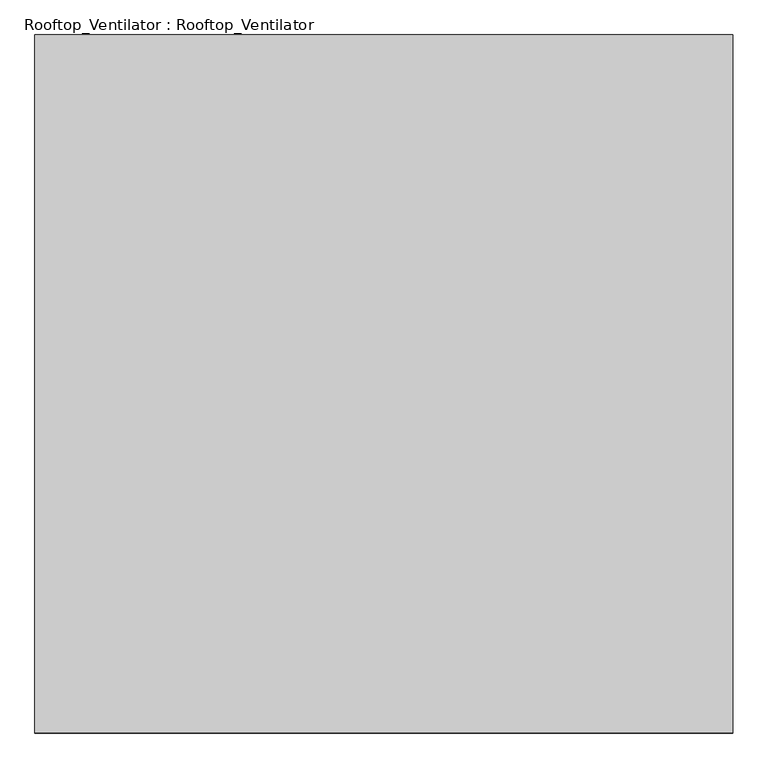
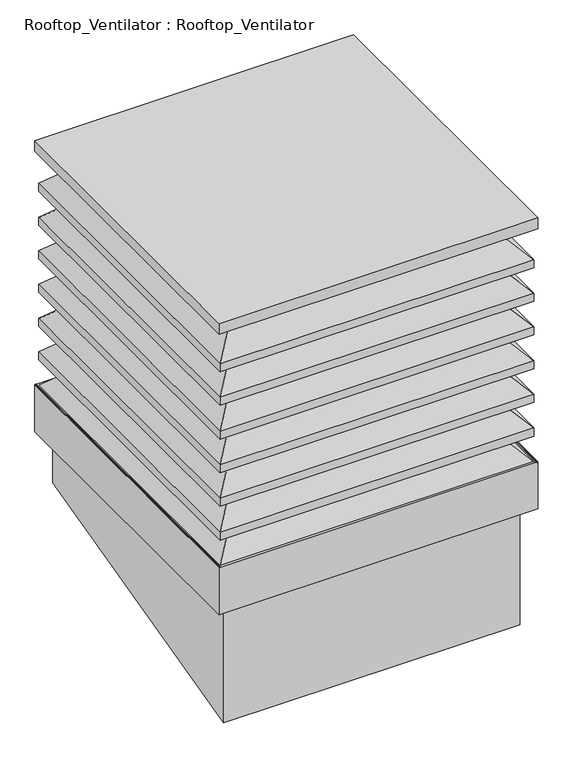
"""IFC4 building model written with IfcOpenShell, lengths in millimetres: proxy geometry, Rooftop_Ventilator : Rooftop_Ventilator."""

import ifcopenshell
import ifcopenshell.guid

model = None  # the IFC model being written
_history = None  # IfcOwnerHistory: only IFC2X3 demands one
_inside = {}  # id of a spatial element -> (the spatial element, [elements in it])
_under = {}  # id of a project, library or spatial element -> (it, [spatial elements below it])
_declared = {}  # id of a project -> (the project, [libraries it declares])
_typed = {}  # id of a type object -> (the type object, [elements of that type])
_made_of = {}  # id of a material, layer set ... -> (it, [elements and type objects made of it])


def new_model(schema):
    """Start an empty IFC model of exactly this schema.

    Asked for "IFC4X3", IfcOpenShell would pick the latest addendum, in which some entities
    have other attributes; the version numbers below select the first issue.
    IFC2X3 requires an IfcOwnerHistory on every rooted entity: one is made here for all.
    """
    global model, _history
    if schema == "IFC4X3":
        model = ifcopenshell.file(schema_version=(4, 3, 0, 0))
    else:
        model = ifcopenshell.file(schema=schema)
    _inside.clear()
    _under.clear()
    _declared.clear()
    _typed.clear()
    _made_of.clear()
    _history = None
    if model.schema == "IFC2X3":
        org = make("IfcOrganization", Name="unknown")
        user = make(
            "IfcPersonAndOrganization",
            ThePerson=make("IfcPerson", FamilyName="unknown"),
            TheOrganization=org,
        )
        app = make(
            "IfcApplication",
            ApplicationDeveloper=org,
            Version="unknown",
            ApplicationFullName="unknown",
            ApplicationIdentifier="unknown",
        )
        _history = make(
            "IfcOwnerHistory",
            OwningUser=user,
            OwningApplication=app,
            ChangeAction="ADDED",
            CreationDate=0,
        )
    return model


def make(cls, **values):
    """One entity of the class cls with the attributes given. An attribute that is None is left unset."""
    return model.create_entity(
        cls, **{name: value for name, value in values.items() if value is not None}
    )


def rooted(cls, **values):
    """An entity with a GlobalId (a new one), such as an element, a storey or a relation."""
    return make(cls, GlobalId=ifcopenshell.guid.new(), OwnerHistory=_history, **values)


def si_unit(unit_type, name, prefix=None):
    """IfcSIUnit, for example si_unit("LENGTHUNIT", "METRE", prefix="MILLI")."""
    return make("IfcSIUnit", UnitType=unit_type, Prefix=prefix, Name=name)


def assignment(units):
    """IfcUnitAssignment: the units of a project."""
    return None if units is None else make("IfcUnitAssignment", Units=units)


def point(xyz):
    """IfcCartesianPoint."""
    return None if xyz is None else make("IfcCartesianPoint", Coordinates=xyz)


def direction(xyz):
    """IfcDirection."""
    return None if xyz is None else make("IfcDirection", DirectionRatios=xyz)


def frame(location, z_axis=None, x_axis=None):
    """IfcAxis2Placement3D, a coordinate frame: its origin and axes. An axis left out is left unset."""
    return make(
        "IfcAxis2Placement3D",
        Location=point(location),
        Axis=direction(z_axis),
        RefDirection=direction(x_axis),
    )


def origin():
    """The frame at (0, 0, 0) with its axes left unset."""
    return frame((0.0, 0.0, 0.0))


def place(relative_to, where):
    """IfcLocalPlacement: puts the frame where relative to a parent placement (None: the world)."""
    return make(
        "IfcLocalPlacement", PlacementRelTo=relative_to, RelativePlacement=where
    )


def context(
    kind, dimensions, precision=None, world=None, true_north=None, identifier=None
):
    """IfcGeometricRepresentationContext, for example the 3D "Model" context."""
    return make(
        "IfcGeometricRepresentationContext",
        ContextIdentifier=identifier,
        ContextType=kind,
        CoordinateSpaceDimension=dimensions,
        Precision=precision,
        WorldCoordinateSystem=world,
        TrueNorth=true_north,
    )


def project(units=None, contexts=None):
    """IfcProject with its units and contexts."""
    return rooted(
        "IfcProject",
        Name="project",
        RepresentationContexts=contexts,
        UnitsInContext=assignment(units),
    )


def spatial(cls, under=None, at=None, **own):
    """A site, building, storey or space (cls), placed at a placement, below another one or the project."""
    s = rooted(cls, ObjectPlacement=at, **own)
    if under is not None:
        _under.setdefault(under.id(), (under, []))[1].append(s)
    return s


def polyline(points):
    """IfcPolyline through the points."""
    return make("IfcPolyline", Points=[point(p) for p in points])


def outline(outer, holes=None, kind="AREA"):
    """IfcArbitraryClosedProfileDef: a profile drawn as a closed curve; with holes, ...WithVoids."""
    if holes is None:
        return make("IfcArbitraryClosedProfileDef", ProfileType=kind, OuterCurve=outer)
    return make(
        "IfcArbitraryProfileDefWithVoids",
        ProfileType=kind,
        OuterCurve=outer,
        InnerCurves=holes,
    )


def extrude(swept, where, along, depth):
    """IfcExtrudedAreaSolid: the profile swept, set in the frame where, extruded along a direction by depth."""
    return make(
        "IfcExtrudedAreaSolid",
        SweptArea=swept,
        Position=where,
        ExtrudedDirection=direction(along),
        Depth=depth,
    )


def faces_of(points, faces, orient=None, outer=None):
    """IfcFace entities. A face is a list of loops; a loop is a list of indices into points, from 0.

    orient and outer hold one flag for each loop. By default every Orientation is true, the
    first loop of a face is its IfcFaceOuterBound and the others are IfcFaceBound.
    """
    made = []
    for i, loops in enumerate(faces):
        bounds = []
        for j, loop in enumerate(loops):
            is_outer = j == 0 if outer is None else outer[i][j]
            bounds.append(
                make(
                    "IfcFaceOuterBound" if is_outer else "IfcFaceBound",
                    Bound=make("IfcPolyLoop", Polygon=[points[k] for k in loop]),
                    Orientation=True if orient is None else orient[i][j],
                )
            )
        made.append(make("IfcFace", Bounds=bounds))
    return made


def faceted_brep(points, faces, orient=None, outer=None, voids=None):
    """IfcFacetedBrep: a solid bounded by flat faces; with voids (closed shells), ...WithVoids."""
    shared = [point(p) for p in points]
    hull = make("IfcClosedShell", CfsFaces=faces_of(shared, faces, orient, outer))
    if voids is None:
        return make("IfcFacetedBrep", Outer=hull)
    return make(
        "IfcFacetedBrepWithVoids",
        Outer=hull,
        Voids=[
            make(cls, CfsFaces=faces_of(shared, fs, o, b)) for cls, fs, o, b in voids
        ],
    )


def shape(context_of_items, identifier, shape_type, items):
    """IfcShapeRepresentation: the items that make up one representation, for example the "Body"."""
    return make(
        "IfcShapeRepresentation",
        ContextOfItems=context_of_items,
        RepresentationIdentifier=identifier,
        RepresentationType=shape_type,
        Items=items,
    )


def source(mapping_origin, context_of_items, identifier, shape_type, items):
    """IfcRepresentationMap: a shape defined once, which mapped items show again and again."""
    return make(
        "IfcRepresentationMap",
        MappingOrigin=mapping_origin,
        MappedRepresentation=shape(context_of_items, identifier, shape_type, items),
    )


def transform(
    local_origin,
    x_axis=None,
    y_axis=None,
    z_axis=None,
    scale=None,
    scale2=None,
    scale3=None,
    uniform=True,
):
    """IfcCartesianTransformationOperator3D, or its non-uniform kind. x_axis, y_axis, z_axis: its Axis1, 2, 3."""
    if uniform:
        return make(
            "IfcCartesianTransformationOperator3D",
            Axis1=direction(x_axis),
            Axis2=direction(y_axis),
            LocalOrigin=point(local_origin),
            Scale=scale,
            Axis3=direction(z_axis),
        )
    return make(
        "IfcCartesianTransformationOperator3DnonUniform",
        Axis1=direction(x_axis),
        Axis2=direction(y_axis),
        LocalOrigin=point(local_origin),
        Scale=scale,
        Axis3=direction(z_axis),
        Scale2=scale2,
        Scale3=scale3,
    )


def mapped(mapping_source, mapping_target):
    """IfcMappedItem: shows the shape of a source again, moved by a transform."""
    return make(
        "IfcMappedItem", MappingSource=mapping_source, MappingTarget=mapping_target
    )


def made_of(thing, what):
    """Note that an element or type object is made of a material, layer set ...; save() writes the relation."""
    if what is not None:
        _made_of.setdefault(what.id(), (what, []))[1].append(thing)
    return thing


def element(
    cls,
    number,
    at=None,
    inside=None,
    cuts=None,
    type_object=None,
    material=None,
    context=None,
    identifier="Body",
    shape_type=None,
    held_by="IfcProductDefinitionShape",
    body=None,
    shapes=None,
    **own,
):
    """One element of the class cls, such as IfcWall. Its Tag is "e" and its number.

    at: its placement. inside: the storey or other place that contains it. cuts: it is an
    opening in that element (IfcRelVoidsElement). A single representation is given by context,
    identifier, shape_type and body (its items); several are given by shapes. held_by: the class
    of the entity that holds the representations. save() writes the other relations.
    """
    e = rooted(cls, Tag="e%d" % number, ObjectPlacement=at, **own)
    if body is not None:
        shapes = [shape(context, identifier, shape_type, body)]
    if shapes is not None:
        e.Representation = make(held_by, Representations=shapes)
    if inside is not None:
        _inside.setdefault(inside.id(), (inside, []))[1].append(e)
    if cuts is not None:
        rooted(
            "IfcRelVoidsElement", RelatingBuildingElement=cuts, RelatedOpeningElement=e
        )
    if type_object is not None:
        _typed.setdefault(type_object.id(), (type_object, []))[1].append(e)
    return made_of(e, material)


def aggregate(whole, parts):
    """IfcRelAggregates: a whole, such as a stair, and the parts it consists of."""
    return rooted("IfcRelAggregates", RelatingObject=whole, RelatedObjects=parts)


def save(model, path):
    """Write the relations noted so far, then the file.

    IfcRelAggregates (storeys below a building ...), IfcRelContainedInSpatialStructure (elements
    in a storey), IfcRelDefinesByType, IfcRelAssociatesMaterial and IfcRelDeclares: one each for
    every whole, place, type object, material and project.
    """
    for whole, parts in _under.values():
        aggregate(whole, parts)
    for where, things in _inside.values():
        rooted(
            "IfcRelContainedInSpatialStructure",
            RelatedElements=things,
            RelatingStructure=where,
        )
    for kind, things in _typed.values():
        rooted("IfcRelDefinesByType", RelatedObjects=things, RelatingType=kind)
    for what, things in _made_of.values():
        rooted("IfcRelAssociatesMaterial", RelatedObjects=things, RelatingMaterial=what)
    for by, libraries in _declared.values():
        rooted("IfcRelDeclares", RelatingContext=by, RelatedDefinitions=libraries)
    model.write(path)


def rooftop_ventilator_rooftop_ventilator_6a53a70c(model_context):
    return source(origin(), model_context, "Body", "SolidModel", [
        extrude(outline(polyline([(-660.4, 152.4), (660.4, 152.4), (660.4, -76.2070777), (-660.4, -406.4990883), (-660.4, 152.4)])), frame((-660.4, 0.0, 0.0), z_axis=(1.0, 0.0, 0.0), x_axis=(0.0, 1.0, 0.0)), (0.0, 0.0, 1.0), 1320.8),
        faceted_brep([(700.9100922, 700.9100922, 1286.925774), (700.9100922, 700.9100922, 1325.025774), (700.9100922, -700.9100922, 1325.025774), (700.9100922, -700.9100922, 1286.925774), (662.8100922, 662.8100922, 1290.100774), (662.8100922, 662.8100922, 1286.925774), (662.8100922, -662.8100922, 1286.925774), (662.8100922, -662.8100922, 1290.100774), (697.7350922, 697.7350922, 1323.7106459), (697.7350922, 697.7350922, 1290.100774), (697.7350922, -697.7350922, 1290.100774), (697.7350922, -697.7350922, 1323.7106459), (549.461637, 549.461637, 1471.9841011), (549.461637, -549.461637, 1471.9841011), (549.461637, 549.461637, 1473.2), (549.461637, -549.461637, 1473.2), (552.7358662, 552.7358662, 1473.2), (552.7358662, -552.7358662, 1473.2), (-700.9100922, -700.9100922, 1325.025774), (-700.9100922, -700.9100922, 1286.925774), (-662.8100922, -662.8100922, 1286.925774), (-662.8100922, -662.8100922, 1290.100774), (-697.7350922, -697.7350922, 1290.100774), (-697.7350922, -697.7350922, 1323.7106459), (-549.461637, -549.461637, 1471.9841011), (-549.461637, -549.461637, 1473.2), (-552.7358662, -552.7358662, 1473.2), (-700.9100922, 700.9100922, 1325.025774), (-700.9100922, 700.9100922, 1286.925774), (-662.8100922, 662.8100922, 1286.925774), (-662.8100922, 662.8100922, 1290.100774), (-697.7350922, 697.7350922, 1290.100774), (-697.7350922, 697.7350922, 1323.7106459), (-549.461637, 549.461637, 1471.9841011), (-549.461637, 549.461637, 1473.2), (-552.7358662, 552.7358662, 1473.2)], [[[0, 1, 2, 3]], [[4, 5, 6, 7]], [[8, 9, 10, 11]], [[12, 8, 11, 13]], [[14, 12, 13, 15]], [[1, 16, 17, 2]], [[3, 2, 18, 19]], [[7, 6, 20, 21]], [[11, 10, 22, 23]], [[13, 11, 23, 24]], [[15, 13, 24, 25]], [[2, 17, 26, 18]], [[19, 18, 27, 28]], [[21, 20, 29, 30]], [[23, 22, 31, 32]], [[24, 23, 32, 33]], [[25, 24, 33, 34]], [[18, 26, 35, 27]], [[28, 27, 1, 0]], [[3, 19, 28, 0], [5, 29, 20, 6]], [[30, 29, 5, 4]], [[9, 31, 22, 10], [7, 21, 30, 4]], [[32, 31, 9, 8]], [[33, 32, 8, 12]], [[34, 33, 12, 14]], [[16, 35, 26, 17], [15, 25, 34, 14]], [[27, 35, 16, 1]]]),
        faceted_brep([(700.9100922, 700.9100922, 1128.175774), (700.9100922, 700.9100922, 1166.275774), (700.9100922, -700.9100922, 1166.275774), (700.9100922, -700.9100922, 1128.175774), (662.8100922, 662.8100922, 1131.350774), (662.8100922, 662.8100922, 1128.175774), (662.8100922, -662.8100922, 1128.175774), (662.8100922, -662.8100922, 1131.350774), (697.7350922, 697.7350922, 1164.9606459), (697.7350922, 697.7350922, 1131.350774), (697.7350922, -697.7350922, 1131.350774), (697.7350922, -697.7350922, 1164.9606459), (554.0509943, 554.0509943, 1308.6447439), (554.0509943, -554.0509943, 1308.6447439), (554.0509943, 554.0509943, 1348.0598719), (554.0509943, -554.0509943, 1348.0598719), (592.1509943, 592.1509943, 1344.8848719), (592.1509943, 592.1509943, 1348.0598719), (592.1509943, -592.1509943, 1348.0598719), (592.1509943, -592.1509943, 1344.8848719), (557.2259943, 557.2259943, 1309.9598719), (557.2259943, 557.2259943, 1344.8848719), (557.2259943, -557.2259943, 1344.8848719), (557.2259943, -557.2259943, 1309.9598719), (-700.9100922, -700.9100922, 1166.275774), (-700.9100922, -700.9100922, 1128.175774), (-662.8100922, -662.8100922, 1128.175774), (-662.8100922, -662.8100922, 1131.350774), (-697.7350922, -697.7350922, 1131.350774), (-697.7350922, -697.7350922, 1164.9606459), (-554.0509943, -554.0509943, 1308.6447439), (-554.0509943, -554.0509943, 1348.0598719), (-592.1509943, -592.1509943, 1348.0598719), (-592.1509943, -592.1509943, 1344.8848719), (-557.2259943, -557.2259943, 1344.8848719), (-557.2259943, -557.2259943, 1309.9598719), (-700.9100922, 700.9100922, 1166.275774), (-700.9100922, 700.9100922, 1128.175774), (-662.8100922, 662.8100922, 1128.175774), (-662.8100922, 662.8100922, 1131.350774), (-697.7350922, 697.7350922, 1131.350774), (-697.7350922, 697.7350922, 1164.9606459), (-554.0509943, 554.0509943, 1308.6447439), (-554.0509943, 554.0509943, 1348.0598719), (-592.1509943, 592.1509943, 1348.0598719), (-592.1509943, 592.1509943, 1344.8848719), (-557.2259943, 557.2259943, 1344.8848719), (-557.2259943, 557.2259943, 1309.9598719)], [[[0, 1, 2, 3]], [[4, 5, 6, 7]], [[8, 9, 10, 11]], [[12, 8, 11, 13]], [[14, 12, 13, 15]], [[16, 17, 18, 19]], [[20, 21, 22, 23]], [[1, 20, 23, 2]], [[3, 2, 24, 25]], [[7, 6, 26, 27]], [[11, 10, 28, 29]], [[13, 11, 29, 30]], [[15, 13, 30, 31]], [[19, 18, 32, 33]], [[23, 22, 34, 35]], [[2, 23, 35, 24]], [[25, 24, 36, 37]], [[27, 26, 38, 39]], [[29, 28, 40, 41]], [[30, 29, 41, 42]], [[31, 30, 42, 43]], [[33, 32, 44, 45]], [[35, 34, 46, 47]], [[24, 35, 47, 36]], [[37, 36, 1, 0]], [[3, 25, 37, 0], [5, 38, 26, 6]], [[39, 38, 5, 4]], [[9, 40, 28, 10], [7, 27, 39, 4]], [[41, 40, 9, 8]], [[42, 41, 8, 12]], [[43, 42, 12, 14]], [[17, 44, 32, 18], [15, 31, 43, 14]], [[45, 44, 17, 16]], [[19, 33, 45, 16], [21, 46, 34, 22]], [[47, 46, 21, 20]], [[36, 47, 20, 1]]]),
        faceted_brep([(700.9100922, 700.9100922, 969.425774), (700.9100922, 700.9100922, 1007.525774), (700.9100922, -700.9100922, 1007.525774), (700.9100922, -700.9100922, 969.425774), (662.8100922, 662.8100922, 972.600774), (662.8100922, 662.8100922, 969.425774), (662.8100922, -662.8100922, 969.425774), (662.8100922, -662.8100922, 972.600774), (697.7350922, 697.7350922, 1006.2106459), (697.7350922, 697.7350922, 972.600774), (697.7350922, -697.7350922, 972.600774), (697.7350922, -697.7350922, 1006.2106459), (554.0509943, 554.0509943, 1149.8947439), (554.0509943, -554.0509943, 1149.8947439), (554.0509943, 554.0509943, 1189.3098719), (554.0509943, -554.0509943, 1189.3098719), (592.1509943, 592.1509943, 1186.1348719), (592.1509943, 592.1509943, 1189.3098719), (592.1509943, -592.1509943, 1189.3098719), (592.1509943, -592.1509943, 1186.1348719), (557.2259943, 557.2259943, 1151.2098719), (557.2259943, 557.2259943, 1186.1348719), (557.2259943, -557.2259943, 1186.1348719), (557.2259943, -557.2259943, 1151.2098719), (-700.9100922, -700.9100922, 1007.525774), (-700.9100922, -700.9100922, 969.425774), (-662.8100922, -662.8100922, 969.425774), (-662.8100922, -662.8100922, 972.600774), (-697.7350922, -697.7350922, 972.600774), (-697.7350922, -697.7350922, 1006.2106459), (-554.0509943, -554.0509943, 1149.8947439), (-554.0509943, -554.0509943, 1189.3098719), (-592.1509943, -592.1509943, 1189.3098719), (-592.1509943, -592.1509943, 1186.1348719), (-557.2259943, -557.2259943, 1186.1348719), (-557.2259943, -557.2259943, 1151.2098719), (-700.9100922, 700.9100922, 1007.525774), (-700.9100922, 700.9100922, 969.425774), (-662.8100922, 662.8100922, 969.425774), (-662.8100922, 662.8100922, 972.600774), (-697.7350922, 697.7350922, 972.600774), (-697.7350922, 697.7350922, 1006.2106459), (-554.0509943, 554.0509943, 1149.8947439), (-554.0509943, 554.0509943, 1189.3098719), (-592.1509943, 592.1509943, 1189.3098719), (-592.1509943, 592.1509943, 1186.1348719), (-557.2259943, 557.2259943, 1186.1348719), (-557.2259943, 557.2259943, 1151.2098719)], [[[0, 1, 2, 3]], [[4, 5, 6, 7]], [[8, 9, 10, 11]], [[12, 8, 11, 13]], [[14, 12, 13, 15]], [[16, 17, 18, 19]], [[20, 21, 22, 23]], [[1, 20, 23, 2]], [[3, 2, 24, 25]], [[7, 6, 26, 27]], [[11, 10, 28, 29]], [[13, 11, 29, 30]], [[15, 13, 30, 31]], [[19, 18, 32, 33]], [[23, 22, 34, 35]], [[2, 23, 35, 24]], [[25, 24, 36, 37]], [[27, 26, 38, 39]], [[29, 28, 40, 41]], [[30, 29, 41, 42]], [[31, 30, 42, 43]], [[33, 32, 44, 45]], [[35, 34, 46, 47]], [[24, 35, 47, 36]], [[37, 36, 1, 0]], [[3, 25, 37, 0], [5, 38, 26, 6]], [[39, 38, 5, 4]], [[9, 40, 28, 10], [7, 27, 39, 4]], [[41, 40, 9, 8]], [[42, 41, 8, 12]], [[43, 42, 12, 14]], [[17, 44, 32, 18], [15, 31, 43, 14]], [[45, 44, 17, 16]], [[19, 33, 45, 16], [21, 46, 34, 22]], [[47, 46, 21, 20]], [[36, 47, 20, 1]]]),
        faceted_brep([(700.9100922, 700.9100922, 810.675774), (700.9100922, 700.9100922, 848.775774), (700.9100922, -700.9100922, 848.775774), (700.9100922, -700.9100922, 810.675774), (662.8100922, 662.8100922, 813.850774), (662.8100922, 662.8100922, 810.675774), (662.8100922, -662.8100922, 810.675774), (662.8100922, -662.8100922, 813.850774), (697.7350922, 697.7350922, 847.4606459), (697.7350922, 697.7350922, 813.850774), (697.7350922, -697.7350922, 813.850774), (697.7350922, -697.7350922, 847.4606459), (554.0509943, 554.0509943, 991.1447439), (554.0509943, -554.0509943, 991.1447439), (554.0509943, 554.0509943, 1030.5598719), (554.0509943, -554.0509943, 1030.5598719), (592.1509943, 592.1509943, 1027.3848719), (592.1509943, 592.1509943, 1030.5598719), (592.1509943, -592.1509943, 1030.5598719), (592.1509943, -592.1509943, 1027.3848719), (557.2259943, 557.2259943, 992.4598719), (557.2259943, 557.2259943, 1027.3848719), (557.2259943, -557.2259943, 1027.3848719), (557.2259943, -557.2259943, 992.4598719), (-700.9100922, -700.9100922, 848.775774), (-700.9100922, -700.9100922, 810.675774), (-662.8100922, -662.8100922, 810.675774), (-662.8100922, -662.8100922, 813.850774), (-697.7350922, -697.7350922, 813.850774), (-697.7350922, -697.7350922, 847.4606459), (-554.0509943, -554.0509943, 991.1447439), (-554.0509943, -554.0509943, 1030.5598719), (-592.1509943, -592.1509943, 1030.5598719), (-592.1509943, -592.1509943, 1027.3848719), (-557.2259943, -557.2259943, 1027.3848719), (-557.2259943, -557.2259943, 992.4598719), (-700.9100922, 700.9100922, 848.775774), (-700.9100922, 700.9100922, 810.675774), (-662.8100922, 662.8100922, 810.675774), (-662.8100922, 662.8100922, 813.850774), (-697.7350922, 697.7350922, 813.850774), (-697.7350922, 697.7350922, 847.4606459), (-554.0509943, 554.0509943, 991.1447439), (-554.0509943, 554.0509943, 1030.5598719), (-592.1509943, 592.1509943, 1030.5598719), (-592.1509943, 592.1509943, 1027.3848719), (-557.2259943, 557.2259943, 1027.3848719), (-557.2259943, 557.2259943, 992.4598719)], [[[0, 1, 2, 3]], [[4, 5, 6, 7]], [[8, 9, 10, 11]], [[12, 8, 11, 13]], [[14, 12, 13, 15]], [[16, 17, 18, 19]], [[20, 21, 22, 23]], [[1, 20, 23, 2]], [[3, 2, 24, 25]], [[7, 6, 26, 27]], [[11, 10, 28, 29]], [[13, 11, 29, 30]], [[15, 13, 30, 31]], [[19, 18, 32, 33]], [[23, 22, 34, 35]], [[2, 23, 35, 24]], [[25, 24, 36, 37]], [[27, 26, 38, 39]], [[29, 28, 40, 41]], [[30, 29, 41, 42]], [[31, 30, 42, 43]], [[33, 32, 44, 45]], [[35, 34, 46, 47]], [[24, 35, 47, 36]], [[37, 36, 1, 0]], [[3, 25, 37, 0], [5, 38, 26, 6]], [[39, 38, 5, 4]], [[9, 40, 28, 10], [7, 27, 39, 4]], [[41, 40, 9, 8]], [[42, 41, 8, 12]], [[43, 42, 12, 14]], [[17, 44, 32, 18], [15, 31, 43, 14]], [[45, 44, 17, 16]], [[19, 33, 45, 16], [21, 46, 34, 22]], [[47, 46, 21, 20]], [[36, 47, 20, 1]]]),
        faceted_brep([(700.9100922, 700.9100922, 651.925774), (700.9100922, 700.9100922, 690.025774), (700.9100922, -700.9100922, 690.025774), (700.9100922, -700.9100922, 651.925774), (662.8100922, 662.8100922, 655.100774), (662.8100922, 662.8100922, 651.925774), (662.8100922, -662.8100922, 651.925774), (662.8100922, -662.8100922, 655.100774), (697.7350922, 697.7350922, 688.7106459), (697.7350922, 697.7350922, 655.100774), (697.7350922, -697.7350922, 655.100774), (697.7350922, -697.7350922, 688.7106459), (554.0509943, 554.0509943, 832.3947439), (554.0509943, -554.0509943, 832.3947439), (554.0509943, 554.0509943, 871.8098719), (554.0509943, -554.0509943, 871.8098719), (592.1509943, 592.1509943, 868.6348719), (592.1509943, 592.1509943, 871.8098719), (592.1509943, -592.1509943, 871.8098719), (592.1509943, -592.1509943, 868.6348719), (557.2259943, 557.2259943, 833.7098719), (557.2259943, 557.2259943, 868.6348719), (557.2259943, -557.2259943, 868.6348719), (557.2259943, -557.2259943, 833.7098719), (-700.9100922, -700.9100922, 690.025774), (-700.9100922, -700.9100922, 651.925774), (-662.8100922, -662.8100922, 651.925774), (-662.8100922, -662.8100922, 655.100774), (-697.7350922, -697.7350922, 655.100774), (-697.7350922, -697.7350922, 688.7106459), (-554.0509943, -554.0509943, 832.3947439), (-554.0509943, -554.0509943, 871.8098719), (-592.1509943, -592.1509943, 871.8098719), (-592.1509943, -592.1509943, 868.6348719), (-557.2259943, -557.2259943, 868.6348719), (-557.2259943, -557.2259943, 833.7098719), (-700.9100922, 700.9100922, 690.025774), (-700.9100922, 700.9100922, 651.925774), (-662.8100922, 662.8100922, 651.925774), (-662.8100922, 662.8100922, 655.100774), (-697.7350922, 697.7350922, 655.100774), (-697.7350922, 697.7350922, 688.7106459), (-554.0509943, 554.0509943, 832.3947439), (-554.0509943, 554.0509943, 871.8098719), (-592.1509943, 592.1509943, 871.8098719), (-592.1509943, 592.1509943, 868.6348719), (-557.2259943, 557.2259943, 868.6348719), (-557.2259943, 557.2259943, 833.7098719)], [[[0, 1, 2, 3]], [[4, 5, 6, 7]], [[8, 9, 10, 11]], [[12, 8, 11, 13]], [[14, 12, 13, 15]], [[16, 17, 18, 19]], [[20, 21, 22, 23]], [[1, 20, 23, 2]], [[3, 2, 24, 25]], [[7, 6, 26, 27]], [[11, 10, 28, 29]], [[13, 11, 29, 30]], [[15, 13, 30, 31]], [[19, 18, 32, 33]], [[23, 22, 34, 35]], [[2, 23, 35, 24]], [[25, 24, 36, 37]], [[27, 26, 38, 39]], [[29, 28, 40, 41]], [[30, 29, 41, 42]], [[31, 30, 42, 43]], [[33, 32, 44, 45]], [[35, 34, 46, 47]], [[24, 35, 47, 36]], [[37, 36, 1, 0]], [[3, 25, 37, 0], [5, 38, 26, 6]], [[39, 38, 5, 4]], [[9, 40, 28, 10], [7, 27, 39, 4]], [[41, 40, 9, 8]], [[42, 41, 8, 12]], [[43, 42, 12, 14]], [[17, 44, 32, 18], [15, 31, 43, 14]], [[45, 44, 17, 16]], [[19, 33, 45, 16], [21, 46, 34, 22]], [[47, 46, 21, 20]], [[36, 47, 20, 1]]]),
        faceted_brep([(700.9100922, 700.9100922, 493.175774), (700.9100922, 700.9100922, 531.275774), (700.9100922, -700.9100922, 531.275774), (700.9100922, -700.9100922, 493.175774), (662.8100922, 662.8100922, 496.350774), (662.8100922, 662.8100922, 493.175774), (662.8100922, -662.8100922, 493.175774), (662.8100922, -662.8100922, 496.350774), (697.7350922, 697.7350922, 529.9606459), (697.7350922, 697.7350922, 496.350774), (697.7350922, -697.7350922, 496.350774), (697.7350922, -697.7350922, 529.9606459), (554.0509943, 554.0509943, 673.6447439), (554.0509943, -554.0509943, 673.6447439), (554.0509943, 554.0509943, 713.0598719), (554.0509943, -554.0509943, 713.0598719), (592.1509943, 592.1509943, 709.8848719), (592.1509943, 592.1509943, 713.0598719), (592.1509943, -592.1509943, 713.0598719), (592.1509943, -592.1509943, 709.8848719), (557.2259943, 557.2259943, 674.9598719), (557.2259943, 557.2259943, 709.8848719), (557.2259943, -557.2259943, 709.8848719), (557.2259943, -557.2259943, 674.9598719), (-700.9100922, -700.9100922, 531.275774), (-700.9100922, -700.9100922, 493.175774), (-662.8100922, -662.8100922, 493.175774), (-662.8100922, -662.8100922, 496.350774), (-697.7350922, -697.7350922, 496.350774), (-697.7350922, -697.7350922, 529.9606459), (-554.0509943, -554.0509943, 673.6447439), (-554.0509943, -554.0509943, 713.0598719), (-592.1509943, -592.1509943, 713.0598719), (-592.1509943, -592.1509943, 709.8848719), (-557.2259943, -557.2259943, 709.8848719), (-557.2259943, -557.2259943, 674.9598719), (-700.9100922, 700.9100922, 531.275774), (-700.9100922, 700.9100922, 493.175774), (-662.8100922, 662.8100922, 493.175774), (-662.8100922, 662.8100922, 496.350774), (-697.7350922, 697.7350922, 496.350774), (-697.7350922, 697.7350922, 529.9606459), (-554.0509943, 554.0509943, 673.6447439), (-554.0509943, 554.0509943, 713.0598719), (-592.1509943, 592.1509943, 713.0598719), (-592.1509943, 592.1509943, 709.8848719), (-557.2259943, 557.2259943, 709.8848719), (-557.2259943, 557.2259943, 674.9598719)], [[[0, 1, 2, 3]], [[4, 5, 6, 7]], [[8, 9, 10, 11]], [[12, 8, 11, 13]], [[14, 12, 13, 15]], [[16, 17, 18, 19]], [[20, 21, 22, 23]], [[1, 20, 23, 2]], [[3, 2, 24, 25]], [[7, 6, 26, 27]], [[11, 10, 28, 29]], [[13, 11, 29, 30]], [[15, 13, 30, 31]], [[19, 18, 32, 33]], [[23, 22, 34, 35]], [[2, 23, 35, 24]], [[25, 24, 36, 37]], [[27, 26, 38, 39]], [[29, 28, 40, 41]], [[30, 29, 41, 42]], [[31, 30, 42, 43]], [[33, 32, 44, 45]], [[35, 34, 46, 47]], [[24, 35, 47, 36]], [[37, 36, 1, 0]], [[3, 25, 37, 0], [5, 38, 26, 6]], [[39, 38, 5, 4]], [[9, 40, 28, 10], [7, 27, 39, 4]], [[41, 40, 9, 8]], [[42, 41, 8, 12]], [[43, 42, 12, 14]], [[17, 44, 32, 18], [15, 31, 43, 14]], [[45, 44, 17, 16]], [[19, 33, 45, 16], [21, 46, 34, 22]], [[47, 46, 21, 20]], [[36, 47, 20, 1]]]),
        faceted_brep([(554.0509943, 554.0509943, 514.8947439), (696.4199642, 696.4199642, 372.525774), (696.4199642, -696.4199642, 372.525774), (554.0509943, -554.0509943, 514.8947439), (554.0509943, 554.0509943, 554.3098719), (554.0509943, -554.0509943, 554.3098719), (592.1509943, 592.1509943, 551.1348719), (592.1509943, 592.1509943, 554.3098719), (592.1509943, -592.1509943, 554.3098719), (592.1509943, -592.1509943, 551.1348719), (557.2259943, 557.2259943, 516.2098719), (557.2259943, 557.2259943, 551.1348719), (557.2259943, -557.2259943, 551.1348719), (557.2259943, -557.2259943, 516.2098719), (700.9100922, 700.9100922, 372.525774), (700.9100922, -700.9100922, 372.525774), (-696.4199642, -696.4199642, 372.525774), (-554.0509943, -554.0509943, 514.8947439), (-554.0509943, -554.0509943, 554.3098719), (-592.1509943, -592.1509943, 554.3098719), (-592.1509943, -592.1509943, 551.1348719), (-557.2259943, -557.2259943, 551.1348719), (-557.2259943, -557.2259943, 516.2098719), (-700.9100922, -700.9100922, 372.525774), (-696.4199642, 696.4199642, 372.525774), (-554.0509943, 554.0509943, 514.8947439), (-554.0509943, 554.0509943, 554.3098719), (-592.1509943, 592.1509943, 554.3098719), (-592.1509943, 592.1509943, 551.1348719), (-557.2259943, 557.2259943, 551.1348719), (-557.2259943, 557.2259943, 516.2098719), (-700.9100922, 700.9100922, 372.525774)], [[[0, 1, 2, 3]], [[4, 0, 3, 5]], [[6, 7, 8, 9]], [[10, 11, 12, 13]], [[14, 10, 13, 15]], [[3, 2, 16, 17]], [[5, 3, 17, 18]], [[9, 8, 19, 20]], [[13, 12, 21, 22]], [[15, 13, 22, 23]], [[17, 16, 24, 25]], [[18, 17, 25, 26]], [[20, 19, 27, 28]], [[22, 21, 29, 30]], [[23, 22, 30, 31]], [[15, 23, 31, 14], [1, 24, 16, 2]], [[25, 24, 1, 0]], [[26, 25, 0, 4]], [[7, 27, 19, 8], [5, 18, 26, 4]], [[28, 27, 7, 6]], [[9, 20, 28, 6], [11, 29, 21, 12]], [[30, 29, 11, 10]], [[31, 30, 10, 14]]]),
        extrude(outline(polyline([(372.525774, -710.2484552), (372.525774, -705.7583271), (373.7570312, -704.5270699), (373.7570312, -709.017198), (372.525774, -710.2484552)])), frame((0.0, -711.2, 0.0), z_axis=(0.0, 1.0, 0.0), x_axis=(0.0, 0.0, 1.0)), (0.0, 0.0, 1.0), 1422.4),
        extrude(outline(polyline([(372.525774, 705.7583271), (372.525774, 710.2484552), (373.7570312, 709.017198), (373.7570312, 704.5270699), (372.525774, 705.7583271)])), frame((0.0, -711.2, 0.0), z_axis=(0.0, 1.0, 0.0), x_axis=(0.0, 0.0, 1.0)), (0.0, 0.0, 1.0), 1422.4),
        faceted_brep([(711.2, 711.2, 1524.0), (-711.2, 711.2, 1524.0), (-711.2, -711.2, 1524.0), (711.2, -711.2, 1524.0), (711.2, 711.2, 152.4), (711.2, -711.2, 152.4), (-711.2, -711.2, 152.4), (-711.2, 711.2, 152.4), (711.2, 711.2, 1473.2), (-711.2, 711.2, 1473.2), (-711.2, 711.2, 373.7570312), (711.2, 711.2, 373.7570312), (-711.2, -711.2, 1473.2), (-711.2, -711.2, 373.7570312), (711.2, -711.2, 1473.2), (711.2, -711.2, 373.7570312), (-545.4726618, -542.738363, 373.7570312), (-545.4726618, 549.461637, 373.7570312), (546.7273382, 549.461637, 373.7570312), (546.7273382, -542.738363, 373.7570312), (-545.4726618, -542.738363, 1473.2), (546.7273382, -542.738363, 1473.2), (546.7273382, 549.461637, 1473.2), (-545.4726618, 549.461637, 1473.2)], [[[0, 1, 2, 3]], [[4, 5, 6, 7]], [[1, 0, 8, 9]], [[4, 7, 10, 11]], [[2, 1, 9, 12]], [[7, 6, 13, 10]], [[3, 2, 12, 14]], [[6, 5, 15, 13]], [[0, 3, 14, 8]], [[5, 4, 11, 15]], [[11, 10, 13, 15], [16, 17, 18, 19]], [[9, 8, 14, 12], [20, 21, 22, 23]], [[16, 19, 21, 20]], [[19, 18, 22, 21]], [[18, 17, 23, 22]], [[17, 16, 20, 23]]]),
    ])


if __name__ == "__main__":
    model = new_model("IFC4")
    model_context = context("Model", 3, world=origin())
    ifc_project = project(units=[si_unit("LENGTHUNIT", "METRE", prefix="MILLI")], contexts=[model_context])
    site = spatial("IfcSite", under=ifc_project)
    building = spatial("IfcBuilding", under=site)
    placement = place(None, origin())
    rooftop_ventilator_rooftop_ventilator_shape = rooftop_ventilator_rooftop_ventilator_6a53a70c(model_context)
    element("IfcBuildingElementProxy", 1, Name="Rooftop_Ventilator : Rooftop_Ventilator", ObjectType="Rooftop_Ventilator : Rooftop_Ventilator", at=placement, inside=building, context=model_context, shape_type="MappedRepresentation", body=[
        mapped(rooftop_ventilator_rooftop_ventilator_shape, transform((0.0, 0.0, 0.0), x_axis=(1.0, 0.0, 0.0), y_axis=(0.0, 1.0, 0.0), z_axis=(0.0, 0.0, 1.0))),
    ])
    save(model, "model.ifc")
